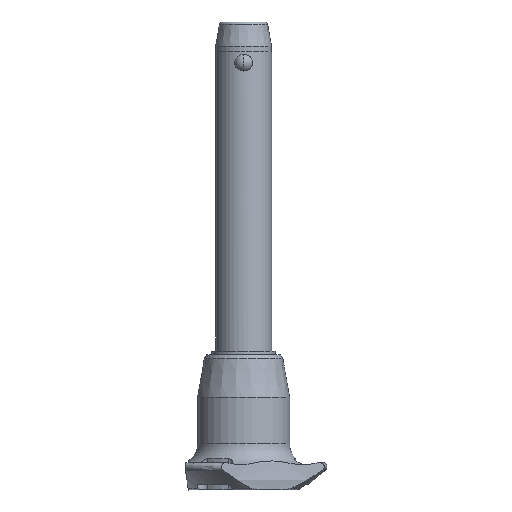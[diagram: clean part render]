
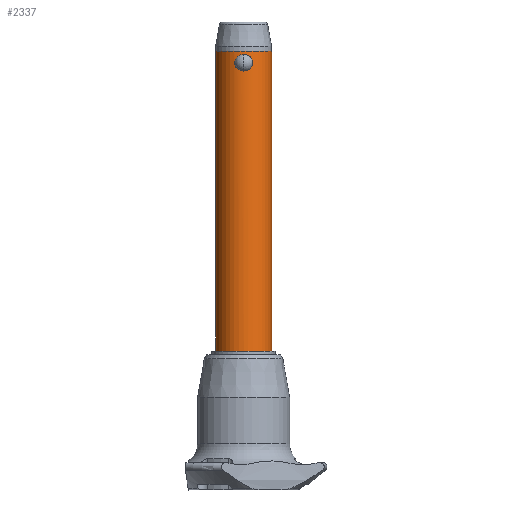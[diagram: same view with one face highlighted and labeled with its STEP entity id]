
A CAD part, front view. The second image highlights one B-rep face of the part: STEP entity #2337.
In plain terms, the highlighted cylindrical face has radius 8 mm (diameter 16 mm), a partial arc.
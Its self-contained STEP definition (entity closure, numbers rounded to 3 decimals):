
#23 = EDGE_LOOP ( 'NONE', ( #1205, #2718 ) ) ;
#61 = LINE ( 'NONE', #1898, #1025 ) ;
#101 = ORIENTED_EDGE ( 'NONE', *, *, #192, .F. ) ;
#105 = CARTESIAN_POINT ( 'NONE',  ( -2.016, -7.746, 0.883 ) ) ;
#106 = ORIENTED_EDGE ( 'NONE', *, *, #2942, .F. ) ;
#120 = CARTESIAN_POINT ( 'NONE',  ( -2.411, -7.628, 1.592 ) ) ;
#132 = CARTESIAN_POINT ( 'NONE',  ( -1.659, -7.827, 0.559 ) ) ;
#147 = DIRECTION ( 'NONE',  ( 0., 0., 1. ) ) ;
#162 = CARTESIAN_POINT ( 'NONE',  ( 0.645, -7.976, 4.704 ) ) ;
#167 = EDGE_CURVE ( 'NONE', #2174, #2558, #2553, .T. ) ;
#180 = DIRECTION ( 'NONE',  ( 1., 0., 0. ) ) ;
#192 = EDGE_CURVE ( 'NONE', #1261, #1199, #400, .T. ) ;
#193 = CARTESIAN_POINT ( 'NONE',  ( 2.528, -7.59, 2.058 ) ) ;
#283 = CARTESIAN_POINT ( 'NONE',  ( 0., -8., 0. ) ) ;
#315 = ORIENTED_EDGE ( 'NONE', *, *, #1344, .T. ) ;
#336 = DIRECTION ( 'NONE',  ( 1., 0., 0. ) ) ;
#357 = CIRCLE ( 'NONE', #1357, 8. ) ;
#372 = CARTESIAN_POINT ( 'NONE',  ( 2.275, -7.67, 1.291 ) ) ;
#374 = CARTESIAN_POINT ( 'NONE',  ( -1.252, -7.903, 4.479 ) ) ;
#387 = CARTESIAN_POINT ( 'NONE',  ( 1.894, -7.773, 0.773 ) ) ;
#400 = CIRCLE ( 'NONE', #2074, 8. ) ;
#420 = CARTESIAN_POINT ( 'NONE',  ( 0.804, -7.961, 4.661 ) ) ;
#434 = CARTESIAN_POINT ( 'NONE',  ( 2.211, -7.69, 3.626 ) ) ;
#533 = CYLINDRICAL_SURFACE ( 'NONE', #2601, 8. ) ;
#544 = CARTESIAN_POINT ( 'NONE',  ( -2.547, -7.584, 2.229 ) ) ;
#563 = CARTESIAN_POINT ( 'NONE',  ( 0., -8., 4.775 ) ) ;
#576 = LINE ( 'NONE', #1478, #2605 ) ;
#577 = CARTESIAN_POINT ( 'NONE',  ( -2.529, -7.59, 2.716 ) ) ;
#664 = CARTESIAN_POINT ( 'NONE',  ( 1.253, -7.903, 4.478 ) ) ;
#774 = CARTESIAN_POINT ( 'NONE',  ( -1.107, -7.924, 4.548 ) ) ;
#786 = CARTESIAN_POINT ( 'NONE',  ( -1.53, -7.854, 0.464 ) ) ;
#842 = CARTESIAN_POINT ( 'NONE',  ( 1.657, -7.827, 0.558 ) ) ;
#870 = CARTESIAN_POINT ( 'NONE',  ( 1.529, -7.854, 4.312 ) ) ;
#873 = ORIENTED_EDGE ( 'NONE', *, *, #1758, .F. ) ;
#932 = CARTESIAN_POINT ( 'NONE',  ( 8., 0., 5.6 ) ) ;
#957 = VERTEX_POINT ( 'NONE', #2533 ) ;
#963 = FACE_BOUND ( 'NONE', #23, .T. ) ;
#967 = CARTESIAN_POINT ( 'NONE',  ( -8., 0., -80. ) ) ;
#977 = DIRECTION ( 'NONE',  ( 0., 0., 1. ) ) ;
#1009 = CARTESIAN_POINT ( 'NONE',  ( -1.896, -7.773, 4.001 ) ) ;
#1022 = CARTESIAN_POINT ( 'NONE',  ( -1.254, -7.902, 0.297 ) ) ;
#1025 = VECTOR ( 'NONE', #2104, 1000. ) ;
#1034 = CARTESIAN_POINT ( 'NONE',  ( -2.211, -7.69, 1.148 ) ) ;
#1044 = CARTESIAN_POINT ( 'NONE',  ( -0.164, -8., 4.775 ) ) ;
#1056 = CARTESIAN_POINT ( 'NONE',  ( 2.546, -7.584, 2.22 ) ) ;
#1075 = CARTESIAN_POINT ( 'NONE',  ( 2.194, -7.694, 1.153 ) ) ;
#1100 = CARTESIAN_POINT ( 'NONE',  ( 0., 0., 5.6 ) ) ;
#1196 = CARTESIAN_POINT ( 'NONE',  ( -8., 0., 5.6 ) ) ;
#1199 = VERTEX_POINT ( 'NONE', #932 ) ;
#1205 = ORIENTED_EDGE ( 'NONE', *, *, #2458, .F. ) ;
#1249 = CARTESIAN_POINT ( 'NONE',  ( -2.003, -7.746, 3.882 ) ) ;
#1261 = VERTEX_POINT ( 'NONE', #1196 ) ;
#1264 = CARTESIAN_POINT ( 'NONE',  ( -2.276, -7.67, 3.482 ) ) ;
#1279 = CARTESIAN_POINT ( 'NONE',  ( -2.408, -7.629, 3.189 ) ) ;
#1291 = CARTESIAN_POINT ( 'NONE',  ( 2.529, -7.59, 2.71 ) ) ;
#1312 = CARTESIAN_POINT ( 'NONE',  ( 1.252, -7.903, 0.296 ) ) ;
#1325 = CARTESIAN_POINT ( 'NONE',  ( 0., -8., 4.775 ) ) ;
#1344 = EDGE_CURVE ( 'NONE', #957, #1199, #576, .T. ) ;
#1357 = AXIS2_PLACEMENT_3D ( 'NONE', #2611, #1471, #336 ) ;
#1468 = CARTESIAN_POINT ( 'NONE',  ( -2.529, -7.59, 2.064 ) ) ;
#1471 = DIRECTION ( 'NONE',  ( 0., 0., -1. ) ) ;
#1478 = CARTESIAN_POINT ( 'NONE',  ( 8., 0., -80. ) ) ;
#1521 = CARTESIAN_POINT ( 'NONE',  ( 1.66, -7.827, 4.215 ) ) ;
#1536 = CARTESIAN_POINT ( 'NONE',  ( 2.46, -7.613, 1.742 ) ) ;
#1555 = CARTESIAN_POINT ( 'NONE',  ( 2.408, -7.629, 1.586 ) ) ;
#1616 = CARTESIAN_POINT ( 'NONE',  ( 0.652, -7.979, 0.058 ) ) ;
#1618 = CARTESIAN_POINT ( 'NONE',  ( 0., 0., -80. ) ) ;
#1677 = CARTESIAN_POINT ( 'NONE',  ( -2.193, -7.694, 3.623 ) ) ;
#1691 = CARTESIAN_POINT ( 'NONE',  ( -1.527, -7.854, 4.313 ) ) ;
#1719 = CARTESIAN_POINT ( 'NONE',  ( -2.459, -7.613, 3.036 ) ) ;
#1750 = DIRECTION ( 'NONE',  ( 0., 0., 1. ) ) ;
#1758 = EDGE_CURVE ( 'NONE', #2801, #1261, #61, .T. ) ;
#1796 = CARTESIAN_POINT ( 'NONE',  ( 1.529, -7.854, 0.463 ) ) ;
#1845 = CARTESIAN_POINT ( 'NONE',  ( 0.324, -8., 0. ) ) ;
#1898 = CARTESIAN_POINT ( 'NONE',  ( -8., 0., -80. ) ) ;
#1935 = CARTESIAN_POINT ( 'NONE',  ( -2.461, -7.612, 1.746 ) ) ;
#1948 = CARTESIAN_POINT ( 'NONE',  ( -0.326, -7.995, 4.761 ) ) ;
#1992 = CARTESIAN_POINT ( 'NONE',  ( 2.016, -7.746, 3.891 ) ) ;
#2066 = CARTESIAN_POINT ( 'NONE',  ( 0., -8., 0. ) ) ;
#2074 = AXIS2_PLACEMENT_3D ( 'NONE', #1100, #1750, #180 ) ;
#2088 = DIRECTION ( 'NONE',  ( 1., 0., 0. ) ) ;
#2104 = DIRECTION ( 'NONE',  ( 0., 0., 1. ) ) ;
#2146 = CARTESIAN_POINT ( 'NONE',  ( -0.645, -7.976, 4.704 ) ) ;
#2170 = CARTESIAN_POINT ( 'NONE',  ( -1.106, -7.925, 0.226 ) ) ;
#2174 = VERTEX_POINT ( 'NONE', #283 ) ;
#2208 = CARTESIAN_POINT ( 'NONE',  ( 2.461, -7.612, 3.027 ) ) ;
#2242 = CARTESIAN_POINT ( 'NONE',  ( 0.326, -7.995, 4.761 ) ) ;
#2256 = CARTESIAN_POINT ( 'NONE',  ( 0., -8., 4.775 ) ) ;
#2337 = ADVANCED_FACE ( 'NONE', ( #2350, #963 ), #533, .T. ) ;
#2350 = FACE_OUTER_BOUND ( 'NONE', #2386, .T. ) ;
#2386 = EDGE_LOOP ( 'NONE', ( #873, #106, #315, #101 ) ) ;
#2431 = CARTESIAN_POINT ( 'NONE',  ( 1.105, -7.925, 0.226 ) ) ;
#2458 = EDGE_CURVE ( 'NONE', #2558, #2174, #2562, .T. ) ;
#2462 = CARTESIAN_POINT ( 'NONE',  ( 2.41, -7.629, 3.184 ) ) ;
#2473 = CARTESIAN_POINT ( 'NONE',  ( 2.547, -7.584, 2.549 ) ) ;
#2533 = CARTESIAN_POINT ( 'NONE',  ( 8., 0., -80. ) ) ;
#2553 = B_SPLINE_CURVE_WITH_KNOTS ( 'NONE', 3,
 ( #2066, #1845, #1616, #2431, #1312, #1796, #842, #387, #2700, #1075, #372, #1555, #1536, #193, #1056, #2473, #1291, #2208, #2462, #434, #1992, #1521, #870, #664, #2685, #420, #162, #2242, #2920, #1325 ),
 .UNSPECIFIED., .F., .F.,
 ( 4, 2, 2, 2, 2, 2, 2, 2, 2, 2, 2, 2, 2, 2, 4 ),
 ( 0.008, 0.009, 0.009, 0.01, 0.01, 0.011, 0.011, 0.012, 0.012, 0.013, 0.014, 0.014, 0.015, 0.015, 0.016 ),
 .UNSPECIFIED. ) ;
#2558 = VERTEX_POINT ( 'NONE', #2256 ) ;
#2562 = B_SPLINE_CURVE_WITH_KNOTS ( 'NONE', 3,
 ( #563, #1044, #1948, #2146, #2619, #774, #374, #1691, #2852, #1009, #1249, #1677, #1264, #1279, #1719, #577, #2826, #544, #1468, #1935, #120, #1034, #105, #132, #786, #1022, #2170, #2607, #2629, #2813 ),
 .UNSPECIFIED., .F., .F.,
 ( 4, 2, 2, 2, 2, 2, 2, 2, 2, 2, 2, 2, 2, 2, 4 ),
 ( 0., 0., 0.001, 0.001, 0.002, 0.002, 0.003, 0.003, 0.004, 0.004, 0.005, 0.006, 0.006, 0.007, 0.008 ),
 .UNSPECIFIED. ) ;
#2601 = AXIS2_PLACEMENT_3D ( 'NONE', #1618, #977, #2088 ) ;
#2605 = VECTOR ( 'NONE', #147, 1000. ) ;
#2607 = CARTESIAN_POINT ( 'NONE',  ( -0.652, -7.979, 0.058 ) ) ;
#2611 = CARTESIAN_POINT ( 'NONE',  ( 0., 0., -80. ) ) ;
#2619 = CARTESIAN_POINT ( 'NONE',  ( -0.803, -7.961, 4.661 ) ) ;
#2629 = CARTESIAN_POINT ( 'NONE',  ( -0.324, -8., 0. ) ) ;
#2685 = CARTESIAN_POINT ( 'NONE',  ( 1.108, -7.924, 4.548 ) ) ;
#2700 = CARTESIAN_POINT ( 'NONE',  ( 2.004, -7.746, 0.894 ) ) ;
#2718 = ORIENTED_EDGE ( 'NONE', *, *, #167, .F. ) ;
#2801 = VERTEX_POINT ( 'NONE', #967 ) ;
#2813 = CARTESIAN_POINT ( 'NONE',  ( 0., -8., 0. ) ) ;
#2826 = CARTESIAN_POINT ( 'NONE',  ( -2.546, -7.584, 2.553 ) ) ;
#2852 = CARTESIAN_POINT ( 'NONE',  ( -1.658, -7.827, 4.216 ) ) ;
#2920 = CARTESIAN_POINT ( 'NONE',  ( 0.164, -8., 4.775 ) ) ;
#2942 = EDGE_CURVE ( 'NONE', #957, #2801, #357, .T. ) ;
